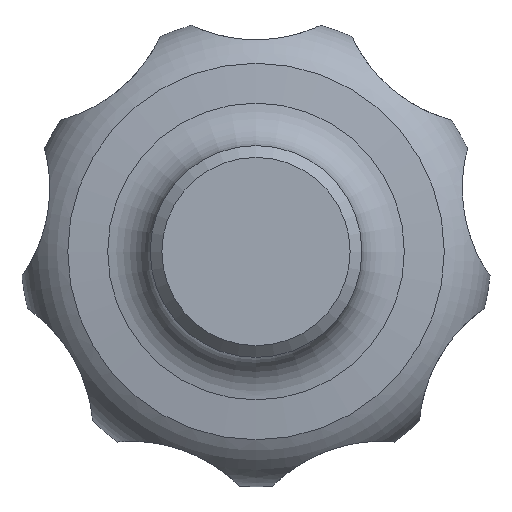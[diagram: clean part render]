
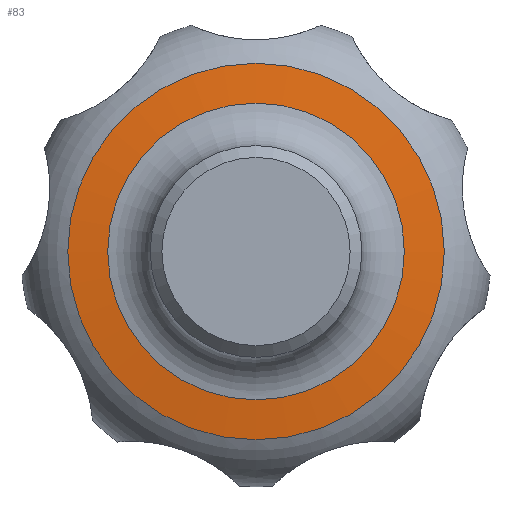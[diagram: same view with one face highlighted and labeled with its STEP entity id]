
A CAD part, front view. The second image highlights one B-rep face of the part: STEP entity #83.
In plain terms, the highlighted spherical face has radius 128.5 mm.
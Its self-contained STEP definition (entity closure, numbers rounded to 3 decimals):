
#83 = ADVANCED_FACE( '', ( #111, #112 ), #113, .T. );
#111 = FACE_OUTER_BOUND( '', #159, .T. );
#112 = FACE_OUTER_BOUND( '', #160, .T. );
#113 = SPHERICAL_SURFACE( '', #161, 128.5 );
#159 = EDGE_LOOP( '', ( #223 ) );
#160 = EDGE_LOOP( '', ( #224 ) );
#161 = AXIS2_PLACEMENT_3D( '', #225, #226, #227 );
#223 = ORIENTED_EDGE( '', *, *, #276, .T. );
#224 = ORIENTED_EDGE( '', *, *, #275, .F. );
#225 = CARTESIAN_POINT( '', ( 0., 143.5, 0. ) );
#226 = DIRECTION( '', ( 0., -1., 0. ) );
#227 = DIRECTION( '', ( 1., 0., 0. ) );
#275 = EDGE_CURVE( '', #299, #299, #300, .T. );
#276 = EDGE_CURVE( '', #301, #301, #302, .T. );
#299 = VERTEX_POINT( '', #651 );
#300 = CIRCLE( '', #652, 12.608 );
#301 = VERTEX_POINT( '', #653 );
#302 = CIRCLE( '', #654, 16. );
#651 = CARTESIAN_POINT( '', ( 0., 15.62, -12.608 ) );
#652 = AXIS2_PLACEMENT_3D( '', #1120, #1121, #1122 );
#653 = CARTESIAN_POINT( '', ( 0., 16., -16. ) );
#654 = AXIS2_PLACEMENT_3D( '', #1123, #1124, #1125 );
#1120 = CARTESIAN_POINT( '', ( 0., 15.62, 0. ) );
#1121 = DIRECTION( '', ( 0., -1., 0. ) );
#1122 = DIRECTION( '', ( 0., 0., -1. ) );
#1123 = CARTESIAN_POINT( '', ( 0., 16., 0. ) );
#1124 = DIRECTION( '', ( 0., -1., 0. ) );
#1125 = DIRECTION( '', ( 0., 0., -1. ) );
